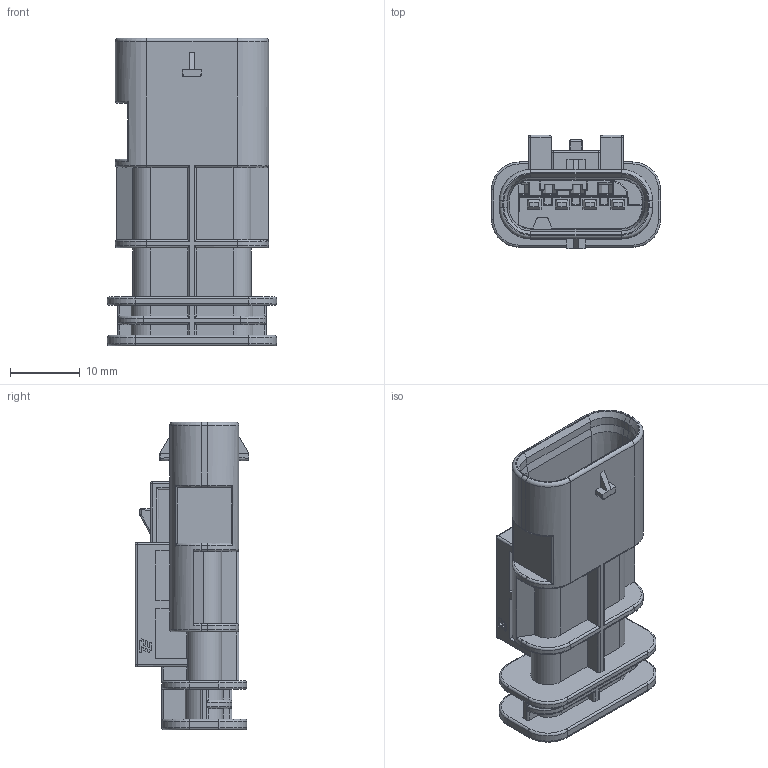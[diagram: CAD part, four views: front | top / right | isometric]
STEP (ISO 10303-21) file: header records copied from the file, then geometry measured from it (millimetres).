
FILE_DESCRIPTION((''),'2;1');
FILE_NAME('C-1-1564559-1','2010-12-03T',('workeradm'),('Tyco Electronics Ltd.'),'PRO/ENGINEER BY PARAMETRIC TECHNOLOGY CORPORATION, 2009300','PRO/ENGINEER BY PARAMETRIC TECHNOLOGY CORPORATION, 2009300','');
FILE_SCHEMA(('AUTOMOTIVE_DESIGN { 1 0 10303 214 1 1 1 1 }'));
Length unit declared in the file: millimetre
Products named in the file (1): C-1-1564559-1
Bounding box: 24.2 x 16.3 x 44 mm (x, y, z)
Volume: 5328.2 mm3; surface area: 6236.4 mm2
Topology: 1 solids, 1 shells, 617 faces, 1551 edges, 953 vertices
Faces by surface type: plane 328, cylinder 195, torus 43, cone 26, sphere 19, bspline 6
Entity records: 18915 total; most frequent: CARTESIAN_POINT 3882, ORIENTED_EDGE 3102, DIRECTION 3044, EDGE_CURVE 1551, VECTOR 1068, LINE 1068, AXIS2_PLACEMENT_3D 988, VERTEX_POINT 953
